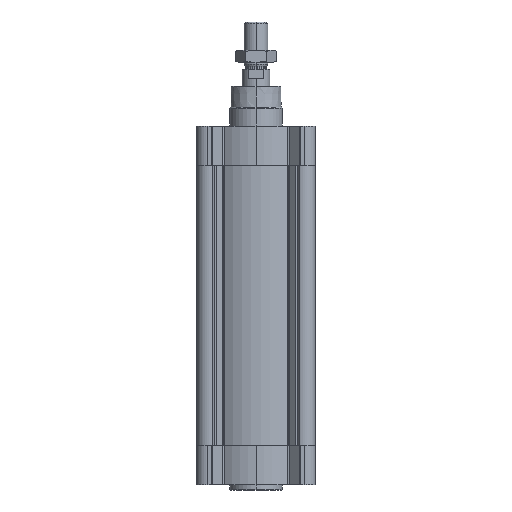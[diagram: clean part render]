
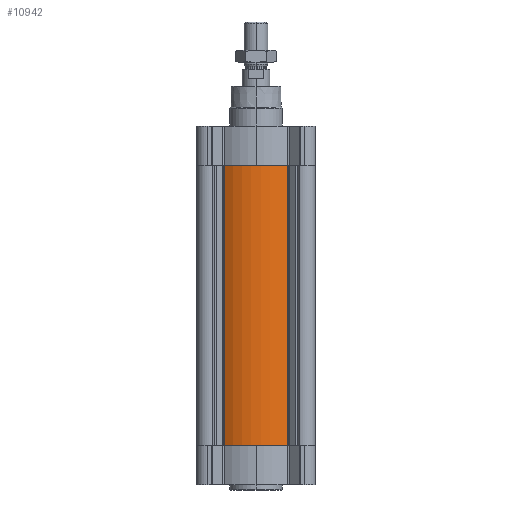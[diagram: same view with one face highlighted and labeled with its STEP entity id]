
A CAD part, left-side view. The second image highlights one B-rep face of the part: STEP entity #10942.
In plain terms, the highlighted cylindrical face has radius 66 mm (diameter 132 mm), a partial arc.
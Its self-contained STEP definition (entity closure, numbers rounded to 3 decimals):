
#578 = CARTESIAN_POINT ( 'NONE',  ( -55.197, 36.184, -240.3 ) ) ;
#2711 = CARTESIAN_POINT ( 'NONE',  ( -55.197, 36.184, -240.3 ) ) ;
#2947 = ORIENTED_EDGE ( 'NONE', *, *, #4685, .F. ) ;
#3229 = CYLINDRICAL_SURFACE ( 'NONE', #7555, 66. ) ;
#3269 = ORIENTED_EDGE ( 'NONE', *, *, #23705, .T. ) ;
#4685 = EDGE_CURVE ( 'NONE', #15527, #26748, #6560, .T. ) ;
#5569 = DIRECTION ( 'NONE',  ( 1., 0., 0. ) ) ;
#5738 = CIRCLE ( 'NONE', #24820, 66. ) ;
#6361 = CARTESIAN_POINT ( 'NONE',  ( -55.197, 36.184, 80.3 ) ) ;
#6560 = LINE ( 'NONE', #578, #7117 ) ;
#6684 = CIRCLE ( 'NONE', #25748, 66. ) ;
#6699 = DIRECTION ( 'NONE',  ( 0., 0., 1. ) ) ;
#7117 = VECTOR ( 'NONE', #6699, 1000. ) ;
#7555 = AXIS2_PLACEMENT_3D ( 'NONE', #18031, #11715, #5569 ) ;
#7729 = VERTEX_POINT ( 'NONE', #14929 ) ;
#7749 = VERTEX_POINT ( 'NONE', #13010 ) ;
#10927 = DIRECTION ( 'NONE',  ( 0., 0., 1. ) ) ;
#10942 = ADVANCED_FACE ( 'NONE', ( #13799 ), #3229, .T. ) ;
#11715 = DIRECTION ( 'NONE',  ( 0., 0., 1. ) ) ;
#13010 = CARTESIAN_POINT ( 'NONE',  ( -55.197, -36.184, 80.3 ) ) ;
#13371 = EDGE_LOOP ( 'NONE', ( #3269, #15100, #2947, #27089 ) ) ;
#13799 = FACE_OUTER_BOUND ( 'NONE', #13371, .T. ) ;
#14108 = LINE ( 'NONE', #27019, #26586 ) ;
#14307 = CARTESIAN_POINT ( 'NONE',  ( 0., 0., 80.3 ) ) ;
#14382 = DIRECTION ( 'NONE',  ( 0., 0., 1. ) ) ;
#14929 = CARTESIAN_POINT ( 'NONE',  ( -55.197, -36.184, -240.3 ) ) ;
#15100 = ORIENTED_EDGE ( 'NONE', *, *, #23477, .F. ) ;
#15527 = VERTEX_POINT ( 'NONE', #2711 ) ;
#18031 = CARTESIAN_POINT ( 'NONE',  ( 0., 0., -240.3 ) ) ;
#18541 = CARTESIAN_POINT ( 'NONE',  ( 0., 0., -240.3 ) ) ;
#19249 = DIRECTION ( 'NONE',  ( 1., 0., 0. ) ) ;
#20537 = DIRECTION ( 'NONE',  ( 1., 0., 0. ) ) ;
#22350 = DIRECTION ( 'NONE',  ( 0., 0., 1. ) ) ;
#23477 = EDGE_CURVE ( 'NONE', #26748, #7749, #5738, .T. ) ;
#23705 = EDGE_CURVE ( 'NONE', #7729, #7749, #14108, .T. ) ;
#24703 = EDGE_CURVE ( 'NONE', #15527, #7729, #6684, .T. ) ;
#24820 = AXIS2_PLACEMENT_3D ( 'NONE', #14307, #22350, #20537 ) ;
#25748 = AXIS2_PLACEMENT_3D ( 'NONE', #18541, #10927, #19249 ) ;
#26586 = VECTOR ( 'NONE', #14382, 1000. ) ;
#26748 = VERTEX_POINT ( 'NONE', #6361 ) ;
#27019 = CARTESIAN_POINT ( 'NONE',  ( -55.197, -36.184, -240.3 ) ) ;
#27089 = ORIENTED_EDGE ( 'NONE', *, *, #24703, .T. ) ;
